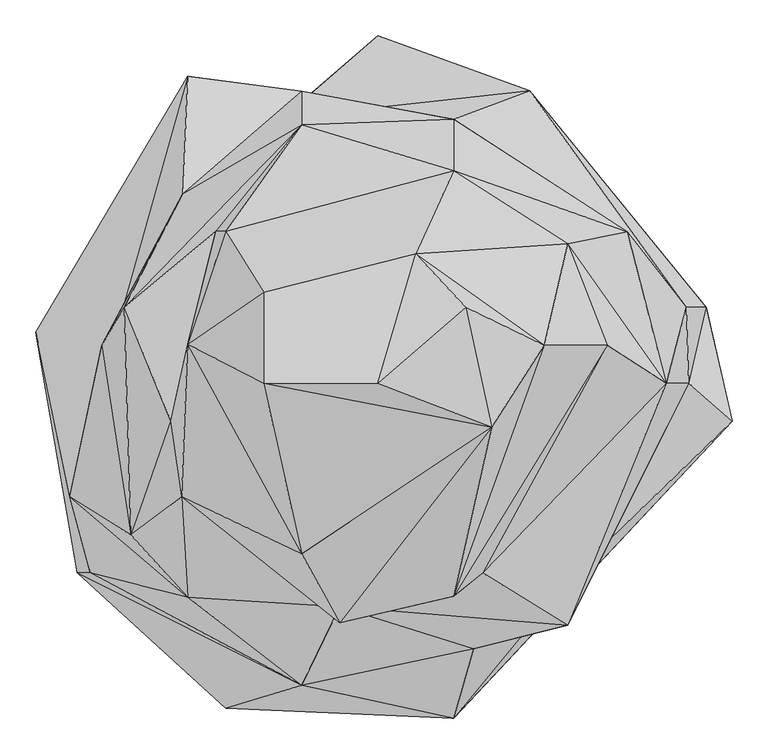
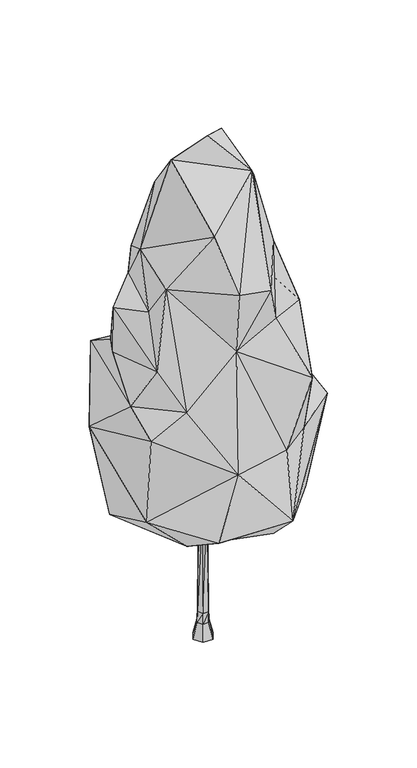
"""IFC4 building model written with IfcOpenShell, lengths in millimetres: geographic element geometry, Enscape AssetDefinition - Coniferous Tree 017 Spruce : Enscape AssetDefinition - Coniferous Tree 017 Spruce 3."""

from ifc_helpers import new_model, si_unit, origin, place, context, project, spatial, triangles, source, transform, mapped, element, save


def geographic_element_8738e9c9(model_context):
    return source(origin(), model_context, "Body", "Tessellation", [
        triangles([(-385.9155066, 47.4001863, 636.6564154), (-464.6228754, 65.6614672, 1064.0218992), (-197.1017409, -219.5389433, 583.5185615), (-406.1608189, -272.9266548, 800.6320896), (-197.1017409, -463.7104674, 745.9735073), (-387.7195753, -272.9266548, 1173.3389912), (-250.6060151, -307.4257118, 1282.6561558), (-90.0930746, -431.0523591, 1009.3633896), (123.9239674, -477.6173584, 745.9735073), (152.2525435, -379.7024411, 1009.3633896), (-36.5888095, -321.0431582, 1501.2903397), (284.4369079, -346.5474154, 1282.6561558), (284.4369079, -282.3857795, 1009.3633896), (479.5358459, 100.7878978, 800.6320896), (516.5817678, -59.3754365, 954.7046619), (391.4454743, -112.7633115, 598.4144546), (123.9239674, -326.3145298, 596.217205), (391.4454743, 47.4001863, 611.3435709), (451.7585443, 100.7878978, 1173.3389912), (230.9324703, 405.8539699, 964.6077639), (423.0899454, -5.987708, 1391.973175), (368.4226427, 207.5635115, 1446.6319027), (123.9239674, 292.8253494, 1719.9245235), (455.0444266, -5.987708, 1064.0218992), (340.0482119, 47.4001863, 1665.2660866), (284.4369079, 190.427003, 1555.948922), (165.2029794, -272.9266548, 1555.948922), (123.9239674, -306.0154781, 1719.9245235), (251.5721625, 47.4001863, 2008.7518066), (-143.5973305, -5.987708, 2243.2479584), (177.428396, -68.4407352, 2118.0686806), (-36.5888095, -343.4731118, 1774.5829605), (-259.0253776, -166.1510502, 1774.5829605), (-90.0930746, -245.868459, 2008.7518066), (-274.5142759, -59.3754365, 1610.6073589), (-330.249137, -219.5389433, 1446.6319027), (-250.6060151, 48.8886856, 1829.2413975), (16.915451, -5.987708, 2299.9998722), (141.0455332, 100.7878978, 2227.3858452), (70.419716, 176.1333624, 2063.4105343), (-143.5973305, 121.9463174, 2063.4105343), (-210.8876727, 207.5635115, 1610.6073589), (-197.1017409, 207.5635115, 1731.5739578), (-90.0930746, 357.9607086, 1501.2903397), (123.9239674, 365.5146807, 1391.973175), (-90.0930746, 405.323588, 1173.3389912), (-339.6400609, 100.7878978, 1555.948922), (-257.2352798, 260.9514228, 1282.6561558), (-371.2269047, 47.4001863, 1391.973175), (-250.6060151, 426.1572001, 1173.3389912), (284.4369079, 322.4816969, 691.314925), (16.915451, 483.3443707, 800.6320896), (177.428396, 314.3391343, 605.2195624), (-143.5973305, 314.3391343, 617.9002928), (-36.5888095, 378.5643929, 691.314925), (-116.2809383, 367.7270093, 800.6320896), (-416.5718476, -166.1510502, 1282.6561558), (13.5309805, 22.018537, 34.1343241), (26.1240867, -0.1076601, 34.1343241), (44.7131183, -0.0023011, -37.8043013), (12.8810758, 20.61074, 83.9827462), (13.2587894, -22.0767252, 34.1343241), (22.6444458, -38.1225095, -37.8043013), (-43.3815817, 0.1014141, -37.8043013), (-21.4028224, -38.0707367, -37.8043013), (-12.1996119, -21.9194265, 34.1343241), (12.3646352, -20.8097877, 83.9827462), (-24.7925546, 0.2067731, 34.1343241), (-23.2483289, 0.3477996, 83.9827462), (-8.34686, -16.575377, 623.581632), (-11.5495426, -20.5116273, 83.9827462), (10.5569319, -16.0681428, 623.581632), (-18.2381082, -0.4577607, 623.581632), (22.7343568, 38.169686, -37.8043013), (-21.3130773, 38.2216268, -37.8043013), (-11.9272562, 22.1756722, 34.1343241), (-11.0331031, 20.9089004, 83.9827462), (-9.2255645, 16.1670909, 623.581632), (9.6783938, 16.6743274, 623.581632), (24.5798632, -0.2486865, 83.9827462), (19.5696426, 0.5568738, 623.581632)], [[81, 72, 67], [67, 80, 81], [79, 81, 80], [80, 61, 79], [61, 80, 59], [78, 79, 61], [61, 77, 78], [73, 78, 77], [74, 75, 76], [70, 73, 69], [77, 69, 73], [69, 77, 76], [71, 67, 72], [72, 70, 71], [69, 71, 70], [71, 69, 68], [76, 68, 69], [68, 76, 75], [75, 64, 68], [67, 71, 66], [68, 66, 71], [66, 68, 64], [62, 59, 80], [80, 67, 62], [66, 62, 67], [62, 66, 65], [64, 65, 66], [59, 62, 63], [65, 63, 62], [63, 60, 59], [58, 76, 77], [77, 61, 58], [76, 58, 74], [59, 58, 61], [60, 74, 58], [58, 59, 60], [36, 57, 7], [57, 36, 49], [57, 50, 2], [56, 1, 2], [2, 50, 56], [56, 55, 1], [1, 55, 54], [56, 53, 55], [55, 53, 54], [52, 53, 56], [53, 20, 51], [56, 20, 52], [52, 20, 53], [56, 45, 20], [46, 56, 50], [45, 56, 46], [48, 46, 50], [50, 57, 48], [57, 49, 48], [47, 48, 49], [36, 47, 49], [48, 44, 46], [47, 44, 48], [44, 45, 46], [44, 23, 45], [43, 23, 44], [43, 44, 42], [42, 44, 47], [35, 42, 47], [36, 35, 47], [37, 43, 42], [35, 37, 42], [41, 43, 37], [41, 40, 23], [41, 23, 43], [38, 39, 40], [41, 38, 40], [30, 38, 41], [30, 41, 37], [34, 30, 37], [33, 36, 7], [33, 35, 36], [33, 34, 37], [33, 37, 35], [11, 33, 7], [34, 33, 32], [32, 33, 11], [31, 34, 32], [31, 39, 38], [30, 31, 38], [31, 30, 34], [39, 29, 40], [31, 29, 39], [11, 28, 32], [31, 28, 29], [32, 28, 31], [28, 11, 27], [12, 27, 11], [29, 28, 25], [25, 28, 27], [29, 25, 26], [40, 26, 23], [40, 29, 26], [25, 21, 26], [27, 21, 25], [27, 12, 21], [21, 12, 24], [23, 26, 22], [23, 22, 45], [26, 21, 22], [21, 24, 19], [45, 22, 19], [22, 21, 19], [45, 19, 20], [19, 24, 14], [19, 14, 20], [18, 53, 51], [20, 18, 51], [20, 14, 18], [18, 54, 53], [17, 1, 54], [17, 54, 18], [16, 17, 18], [15, 16, 18], [24, 15, 14], [14, 15, 18], [24, 12, 13], [13, 15, 24], [12, 10, 13], [12, 11, 10], [13, 10, 9], [15, 13, 9], [15, 9, 16], [9, 17, 16], [3, 1, 17], [9, 3, 17], [9, 5, 3], [9, 8, 5], [10, 8, 9], [11, 8, 10], [11, 7, 8], [6, 7, 57], [57, 2, 6], [8, 7, 6], [5, 8, 4], [3, 5, 4], [8, 6, 4], [4, 2, 1], [4, 1, 3], [4, 6, 2]], closed=False),
    ])


if __name__ == "__main__":
    model = new_model("IFC4")
    model_context = context("Model", 3, world=origin())
    ifc_project = project(units=[si_unit("LENGTHUNIT", "METRE", prefix="MILLI")], contexts=[model_context])
    site = spatial("IfcSite", under=ifc_project)
    building = spatial("IfcBuilding", under=site)
    placement = place(None, origin())
    geographic_element_shape = geographic_element_8738e9c9(model_context)
    element("IfcGeographicElement", 1, ObjectType="Enscape AssetDefinition - Coniferous Tree 017 Spruce : Enscape AssetDefinition - Coniferous Tree 017 Spruce 3", at=placement, inside=building, context=model_context, shape_type="MappedRepresentation", body=[
        mapped(geographic_element_shape, transform((0.0, 0.0, 0.0), x_axis=(1.0, 0.0, 0.0), y_axis=(0.0, 1.0, 0.0), z_axis=(0.0, 0.0, 1.0))),
    ])
    save(model, "model.ifc")
